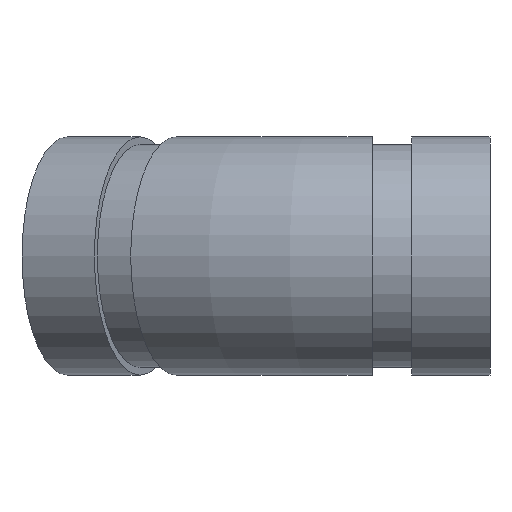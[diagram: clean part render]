
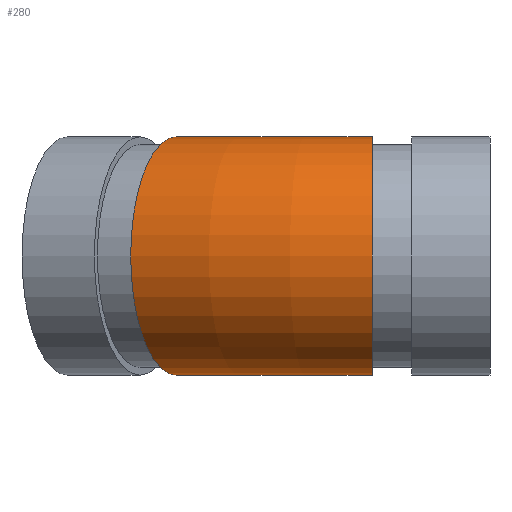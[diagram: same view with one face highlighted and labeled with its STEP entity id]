
A CAD part, left-side view. The second image highlights one B-rep face of the part: STEP entity #280.
In plain terms, the highlighted toroidal (fillet/blend) face has major radius 103.688 mm and minor radius 24.13 mm.
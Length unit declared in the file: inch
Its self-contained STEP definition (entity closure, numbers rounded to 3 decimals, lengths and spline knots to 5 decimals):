
#46=TOROIDAL_SURFACE('',#335,4.0822,0.95);
#78=FACE_OUTER_BOUND('',#96,.T.);
#96=EDGE_LOOP('',(#221,#222,#223,#224,#225,#226));
#105=CIRCLE('',#308,0.95);
#106=CIRCLE('',#309,0.95);
#116=CIRCLE('',#323,0.95);
#117=CIRCLE('',#324,0.95);
#126=CIRCLE('',#336,3.1322);
#131=VERTEX_POINT('',#476);
#132=VERTEX_POINT('',#477);
#142=VERTEX_POINT('',#504);
#143=VERTEX_POINT('',#505);
#155=EDGE_CURVE('',#131,#132,#105,.T.);
#156=EDGE_CURVE('',#132,#131,#106,.T.);
#168=EDGE_CURVE('',#142,#143,#116,.T.);
#169=EDGE_CURVE('',#143,#142,#117,.T.);
#178=EDGE_CURVE('',#132,#143,#126,.T.);
#221=ORIENTED_EDGE('',*,*,#155,.T.);
#222=ORIENTED_EDGE('',*,*,#178,.T.);
#223=ORIENTED_EDGE('',*,*,#169,.T.);
#224=ORIENTED_EDGE('',*,*,#168,.T.);
#225=ORIENTED_EDGE('',*,*,#178,.F.);
#226=ORIENTED_EDGE('',*,*,#156,.T.);
#280=ADVANCED_FACE('',(#78),#46,.T.);
#308=AXIS2_PLACEMENT_3D('',#478,#364,#365);
#309=AXIS2_PLACEMENT_3D('',#479,#366,#367);
#323=AXIS2_PLACEMENT_3D('',#506,#396,#397);
#324=AXIS2_PLACEMENT_3D('',#507,#398,#399);
#335=AXIS2_PLACEMENT_3D('',#525,#420,#421);
#336=AXIS2_PLACEMENT_3D('',#526,#422,#423);
#364=DIRECTION('center_axis',(-0.383,-0.924,0.));
#365=DIRECTION('ref_axis',(0.924,-0.383,0.));
#366=DIRECTION('center_axis',(-0.383,-0.924,0.));
#367=DIRECTION('ref_axis',(0.924,-0.383,0.));
#396=DIRECTION('center_axis',(0.,1.,0.));
#397=DIRECTION('ref_axis',(1.,0.,0.));
#398=DIRECTION('center_axis',(0.,1.,0.));
#399=DIRECTION('ref_axis',(1.,0.,0.));
#420=DIRECTION('center_axis',(0.,0.,-1.));
#421=DIRECTION('ref_axis',(-1.,0.,0.));
#422=DIRECTION('center_axis',(0.,0.,1.));
#423=DIRECTION('ref_axis',(-1.,0.,0.));
#476=CARTESIAN_POINT('',(0.31074,2.50019,0.95));
#477=CARTESIAN_POINT('',(1.18842,2.13664,0.));
#478=CARTESIAN_POINT('Origin',(0.31074,2.50019,0.));
#479=CARTESIAN_POINT('Origin',(0.31074,2.50019,0.));
#504=CARTESIAN_POINT('',(0.,0.938,0.95));
#505=CARTESIAN_POINT('',(0.95,0.938,0.));
#506=CARTESIAN_POINT('Origin',(0.,0.938,0.));
#507=CARTESIAN_POINT('Origin',(0.,0.938,0.));
#525=CARTESIAN_POINT('Origin',(4.0822,0.938,0.));
#526=CARTESIAN_POINT('Origin',(4.0822,0.938,0.));
